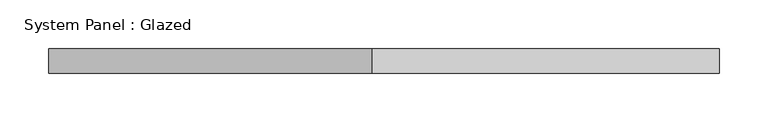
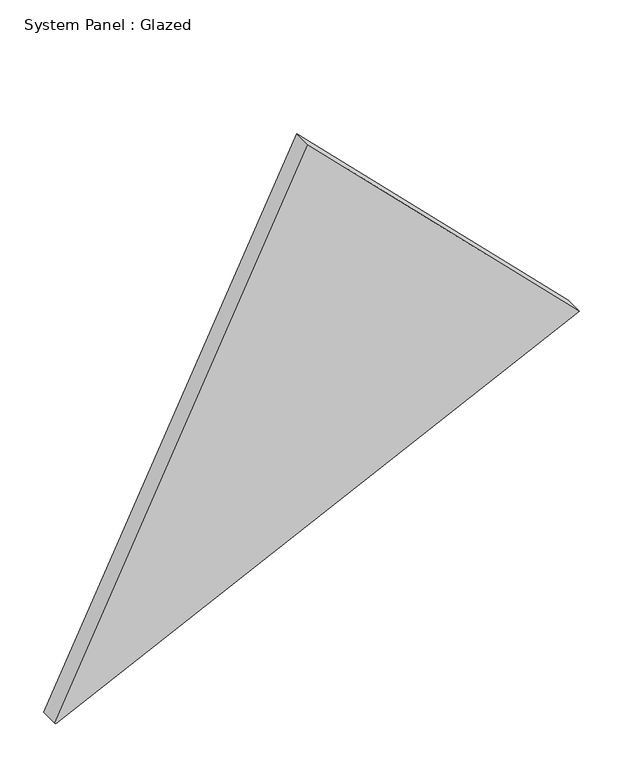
"""IFC4 building model written with IfcOpenShell, lengths in millimetres: plate geometry, System Panel : Glazed."""

from ifc_helpers import new_model, si_unit, frame, origin, place, context, project, spatial, polyline, outline, extrude, source, transform, mapped, element, save


def system_panel_glazed_6c08feb5(model_context):
    return source(origin(), model_context, "Body", "SweptSolid", [
        extrude(outline(polyline([(1.1855973, -344.0218523), (0.0, -342.836783), (331.89583, 344.0218523), (687.896343, -11.8201387), (1.1855973, -344.0218523)])), frame((0.0, -49.5, 0.0), z_axis=(0.0, 1.0, 0.0), x_axis=(0.0, 0.0, 1.0)), (0.0, 0.0, 1.0), 25.0),
    ])


if __name__ == "__main__":
    model = new_model("IFC4")
    model_context = context("Model", 3, world=origin())
    ifc_project = project(units=[si_unit("LENGTHUNIT", "METRE", prefix="MILLI")], contexts=[model_context])
    site = spatial("IfcSite", under=ifc_project)
    building = spatial("IfcBuilding", under=site)
    placement = place(None, origin())
    system_panel_glazed_shape = system_panel_glazed_6c08feb5(model_context)
    element("IfcPlate", 1, ObjectType="System Panel : Glazed", at=placement, inside=building, context=model_context, shape_type="MappedRepresentation", body=[
        mapped(system_panel_glazed_shape, transform((0.0, 0.0, 0.0), x_axis=(1.0, 0.0, 0.0), y_axis=(0.0, 1.0, 0.0), z_axis=(0.0, 0.0, 1.0))),
    ])
    save(model, "model.ifc")
